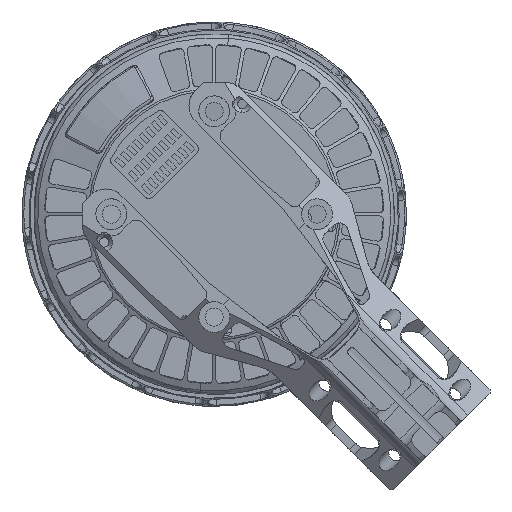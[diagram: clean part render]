
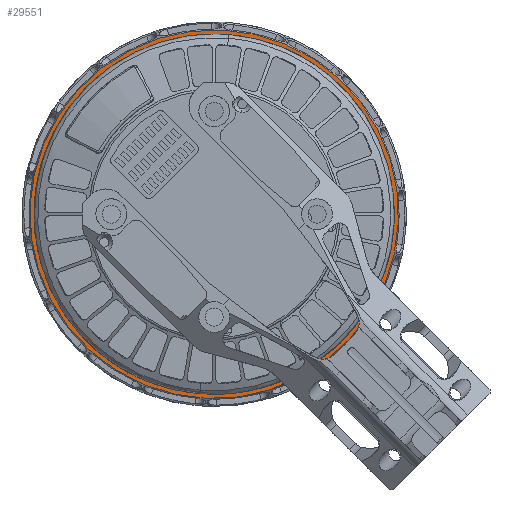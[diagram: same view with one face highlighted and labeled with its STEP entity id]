
A CAD part, front view. The second image highlights one B-rep face of the part: STEP entity #29551.
In plain terms, the highlighted planar face has unit normal (0, -1, 0).
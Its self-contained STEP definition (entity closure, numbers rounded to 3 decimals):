
#601 = CARTESIAN_POINT ( 'NONE',  ( 0., -0.75, 0. ) ) ;
#2363 = VERTEX_POINT ( 'NONE', #19271 ) ;
#5372 = AXIS2_PLACEMENT_3D ( 'NONE', #87799, #9208, #7485 ) ;
#7482 = CIRCLE ( 'NONE', #93656, 43. ) ;
#7485 = DIRECTION ( 'NONE',  ( -0.301, 0., 0.954 ) ) ;
#9208 = DIRECTION ( 'NONE',  ( 0., 1., 0. ) ) ;
#10503 = CARTESIAN_POINT ( 'NONE',  ( 41.009, -0.75, 12.933 ) ) ;
#14483 = FACE_OUTER_BOUND ( 'NONE', #55414, .T. ) ;
#16204 = AXIS2_PLACEMENT_3D ( 'NONE', #66729, #65604, #93686 ) ;
#19271 = CARTESIAN_POINT ( 'NONE',  ( -12.121, -0.75, 38.434 ) ) ;
#23664 = PLANE ( 'NONE',  #16204 ) ;
#24928 = ORIENTED_EDGE ( 'NONE', *, *, #27617, .F. ) ;
#25024 = AXIS2_PLACEMENT_3D ( 'NONE', #91618, #47933, #64090 ) ;
#25304 = DIRECTION ( 'NONE',  ( -0.954, 0., -0.301 ) ) ;
#27617 = EDGE_CURVE ( 'NONE', #94082, #98443, #80233, .T. ) ;
#27848 = ORIENTED_EDGE ( 'NONE', *, *, #60662, .F. ) ;
#29551 = ADVANCED_FACE ( 'NONE', ( #14483, #49443 ), #23664, .T. ) ;
#34959 = DIRECTION ( 'NONE',  ( 0., 1., 0. ) ) ;
#47933 = DIRECTION ( 'NONE',  ( 0., 1., 0. ) ) ;
#49281 = CIRCLE ( 'NONE', #5372, 40.3 ) ;
#49443 = FACE_BOUND ( 'NONE', #100982, .T. ) ;
#54942 = ORIENTED_EDGE ( 'NONE', *, *, #56240, .T. ) ;
#55414 = EDGE_LOOP ( 'NONE', ( #27848, #24928 ) ) ;
#56240 = EDGE_CURVE ( 'NONE', #76314, #2363, #72713, .T. ) ;
#60409 = ORIENTED_EDGE ( 'NONE', *, *, #83126, .T. ) ;
#60662 = EDGE_CURVE ( 'NONE', #98443, #94082, #7482, .T. ) ;
#61838 = CARTESIAN_POINT ( 'NONE',  ( -41.009, -0.75, -12.933 ) ) ;
#64090 = DIRECTION ( 'NONE',  ( -0.301, 0., 0.954 ) ) ;
#65604 = DIRECTION ( 'NONE',  ( 0., -1., 0. ) ) ;
#66729 = CARTESIAN_POINT ( 'NONE',  ( 0., -0.75, 0. ) ) ;
#72713 = CIRCLE ( 'NONE', #25024, 40.3 ) ;
#76314 = VERTEX_POINT ( 'NONE', #89493 ) ;
#78109 = DIRECTION ( 'NONE',  ( -0.954, 0., -0.301 ) ) ;
#80233 = CIRCLE ( 'NONE', #93055, 43. ) ;
#83126 = EDGE_CURVE ( 'NONE', #2363, #76314, #49281, .T. ) ;
#86181 = CARTESIAN_POINT ( 'NONE',  ( 0., -0.75, 0. ) ) ;
#87799 = CARTESIAN_POINT ( 'NONE',  ( 0., -0.75, 0. ) ) ;
#89493 = CARTESIAN_POINT ( 'NONE',  ( 12.121, -0.75, -38.434 ) ) ;
#91618 = CARTESIAN_POINT ( 'NONE',  ( 0., -0.75, 0. ) ) ;
#93055 = AXIS2_PLACEMENT_3D ( 'NONE', #601, #34959, #78109 ) ;
#93656 = AXIS2_PLACEMENT_3D ( 'NONE', #86181, #112487, #25304 ) ;
#93686 = DIRECTION ( 'NONE',  ( 0.301, 0., -0.954 ) ) ;
#94082 = VERTEX_POINT ( 'NONE', #10503 ) ;
#98443 = VERTEX_POINT ( 'NONE', #61838 ) ;
#100982 = EDGE_LOOP ( 'NONE', ( #60409, #54942 ) ) ;
#112487 = DIRECTION ( 'NONE',  ( 0., 1., 0. ) ) ;
